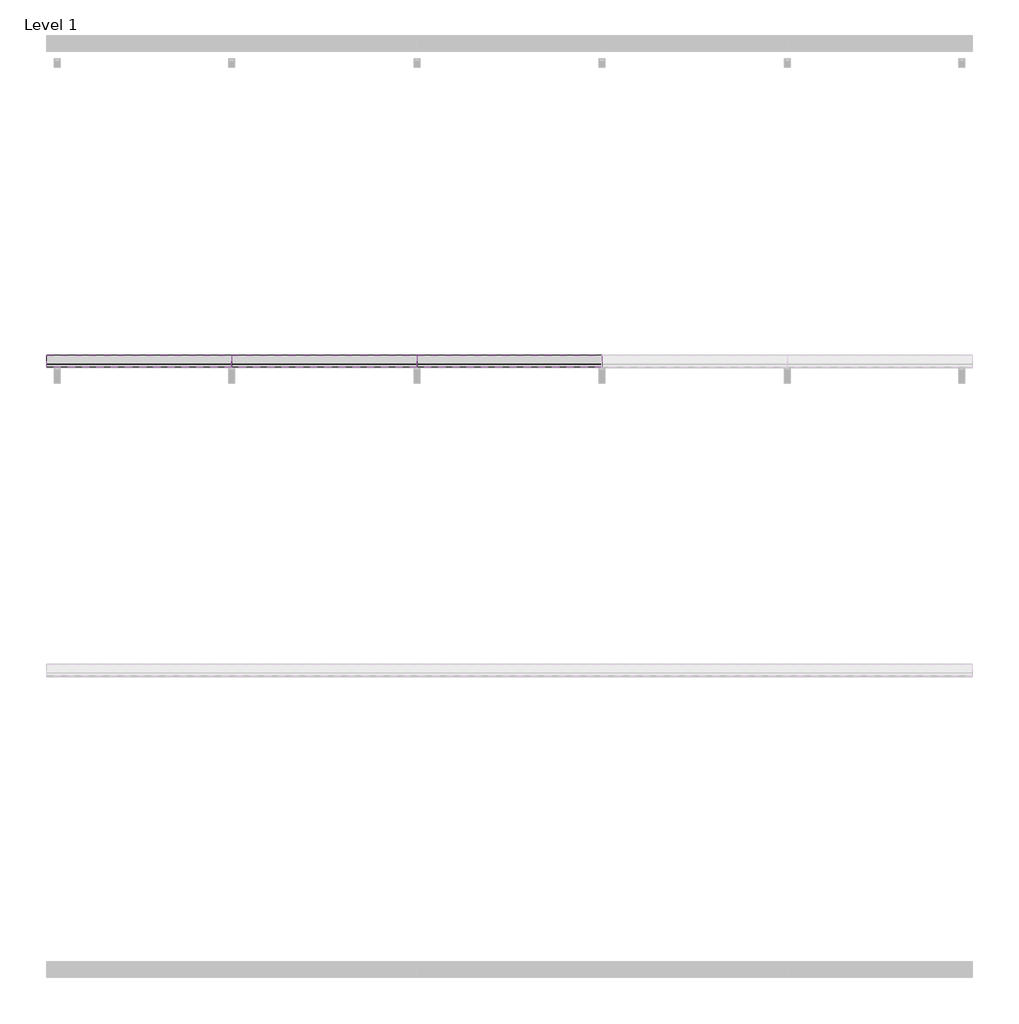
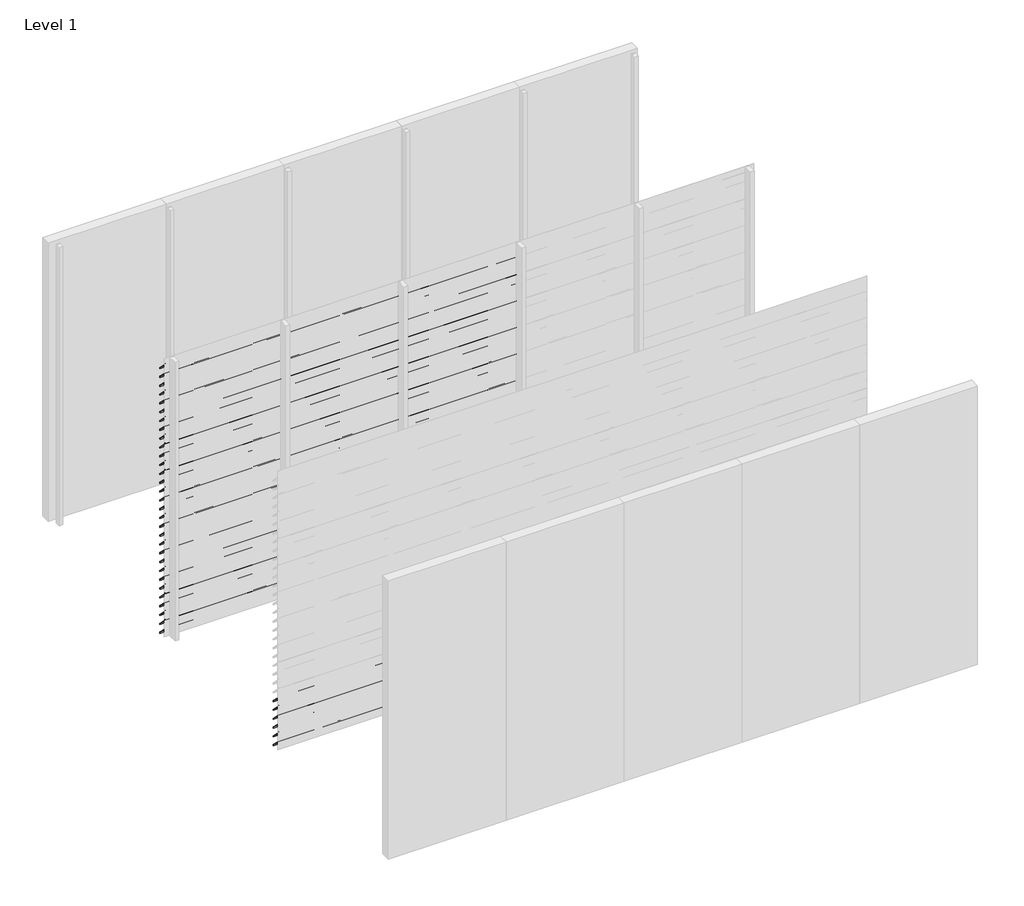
# One storey, part 10 of 24: 89 proxies.
"""IFC4 building model written with IfcOpenShell, lengths in millimetres."""

from ifc_helpers import new_model, si_unit, frame, origin, place, context, project, spatial, polyline, outline, extrude, element, save

model = new_model("IFC4")

# Units and contexts
model_context = context("Model", 3, world=origin())
ifc_project = project(units=[si_unit("LENGTHUNIT", "METRE", prefix="MILLI")], contexts=[model_context])

# Site, building, storey
site = spatial("IfcSite", under=ifc_project)
building = spatial("IfcBuilding", under=site)
storey = spatial("IfcBuildingStorey", under=building, Name="Level 1", Elevation=0.0)

# Proxies
placement = place(None, origin())
element("IfcBuildingElementProxy", 1, Name="Wall Sweeps", at=placement, inside=storey, context=model_context, shape_type="SweptSolid", body=[
    extrude(outline(polyline([(-35920.8, 2842.9), (-35922.3, 2842.9), (-35922.3, 2855.1762333), (-35998.0, 2930.4561238), (-35998.0, 2945.0), (-35996.5, 2945.0), (-35996.5, 2931.0798905), (-35920.8, 2855.8), (-35920.8, 2842.9)])), frame((0.0, 0.0, 0.0), z_axis=(1.0, 0.0, 0.0), x_axis=(0.0, 1.0, 0.0)), (0.0, 0.0, 1.0), 1200.0),
])
element("IfcBuildingElementProxy", 2, Name="Wall Sweeps", at=placement, inside=storey, context=model_context, shape_type="SweptSolid", body=[
    extrude(outline(polyline([(-35920.8, 2747.9), (-35922.3, 2747.9), (-35922.3, 2760.1762333), (-35998.0, 2835.4561238), (-35998.0, 2850.0), (-35996.5, 2850.0), (-35996.5, 2836.0798905), (-35920.8, 2760.8), (-35920.8, 2747.9)])), frame((0.0, 0.0, 0.0), z_axis=(1.0, 0.0, 0.0), x_axis=(0.0, 1.0, 0.0)), (0.0, 0.0, 1.0), 1200.0),
])
element("IfcBuildingElementProxy", 3, Name="Wall Sweeps", at=placement, inside=storey, context=model_context, shape_type="SweptSolid", body=[
    extrude(outline(polyline([(-35920.8, 2652.9), (-35922.3, 2652.9), (-35922.3, 2665.1762333), (-35998.0, 2740.4561238), (-35998.0, 2755.0), (-35996.5, 2755.0), (-35996.5, 2741.0798905), (-35920.8, 2665.8), (-35920.8, 2652.9)])), frame((0.0, 0.0, 0.0), z_axis=(1.0, 0.0, 0.0), x_axis=(0.0, 1.0, 0.0)), (0.0, 0.0, 1.0), 1200.0),
])
element("IfcBuildingElementProxy", 4, Name="Wall Sweeps", at=placement, inside=storey, context=model_context, shape_type="SweptSolid", body=[
    extrude(outline(polyline([(-35920.8, 2557.9), (-35922.3, 2557.9), (-35922.3, 2570.1762333), (-35998.0, 2645.4561238), (-35998.0, 2660.0), (-35996.5, 2660.0), (-35996.5, 2646.0798905), (-35920.8, 2570.8), (-35920.8, 2557.9)])), frame((0.0, 0.0, 0.0), z_axis=(1.0, 0.0, 0.0), x_axis=(0.0, 1.0, 0.0)), (0.0, 0.0, 1.0), 1200.0),
])
element("IfcBuildingElementProxy", 5, Name="Wall Sweeps", at=placement, inside=storey, context=model_context, shape_type="SweptSolid", body=[
    extrude(outline(polyline([(-35920.8, 2462.9), (-35922.3, 2462.9), (-35922.3, 2475.1762333), (-35998.0, 2550.4561238), (-35998.0, 2565.0), (-35996.5, 2565.0), (-35996.5, 2551.0798905), (-35920.8, 2475.8), (-35920.8, 2462.9)])), frame((0.0, 0.0, 0.0), z_axis=(1.0, 0.0, 0.0), x_axis=(0.0, 1.0, 0.0)), (0.0, 0.0, 1.0), 1200.0),
])
element("IfcBuildingElementProxy", 6, Name="Wall Sweeps", at=placement, inside=storey, context=model_context, shape_type="SweptSolid", body=[
    extrude(outline(polyline([(-35920.8, 2367.9), (-35922.3, 2367.9), (-35922.3, 2380.1762333), (-35998.0, 2455.4561238), (-35998.0, 2470.0), (-35996.5, 2470.0), (-35996.5, 2456.0798905), (-35920.8, 2380.8), (-35920.8, 2367.9)])), frame((0.0, 0.0, 0.0), z_axis=(1.0, 0.0, 0.0), x_axis=(0.0, 1.0, 0.0)), (0.0, 0.0, 1.0), 1200.0),
])
element("IfcBuildingElementProxy", 7, Name="Wall Sweeps", at=placement, inside=storey, context=model_context, shape_type="SweptSolid", body=[
    extrude(outline(polyline([(-35920.8, 2272.9), (-35922.3, 2272.9), (-35922.3, 2285.1762333), (-35998.0, 2360.4561238), (-35998.0, 2375.0), (-35996.5, 2375.0), (-35996.5, 2361.0798905), (-35920.8, 2285.8), (-35920.8, 2272.9)])), frame((0.0, 0.0, 0.0), z_axis=(1.0, 0.0, 0.0), x_axis=(0.0, 1.0, 0.0)), (0.0, 0.0, 1.0), 1200.0),
])
element("IfcBuildingElementProxy", 8, Name="Wall Sweeps", at=placement, inside=storey, context=model_context, shape_type="SweptSolid", body=[
    extrude(outline(polyline([(-35920.8, 2177.9), (-35922.3, 2177.9), (-35922.3, 2190.1762333), (-35998.0, 2265.4561238), (-35998.0, 2280.0), (-35996.5, 2280.0), (-35996.5, 2266.0798905), (-35920.8, 2190.8), (-35920.8, 2177.9)])), frame((0.0, 0.0, 0.0), z_axis=(1.0, 0.0, 0.0), x_axis=(0.0, 1.0, 0.0)), (0.0, 0.0, 1.0), 1200.0),
])
element("IfcBuildingElementProxy", 9, Name="Wall Sweeps", at=placement, inside=storey, context=model_context, shape_type="SweptSolid", body=[
    extrude(outline(polyline([(-35920.8, 2082.9), (-35922.3, 2082.9), (-35922.3, 2095.1762333), (-35998.0, 2170.4561238), (-35998.0, 2185.0), (-35996.5, 2185.0), (-35996.5, 2171.0798905), (-35920.8, 2095.8), (-35920.8, 2082.9)])), frame((0.0, 0.0, 0.0), z_axis=(1.0, 0.0, 0.0), x_axis=(0.0, 1.0, 0.0)), (0.0, 0.0, 1.0), 1200.0),
])
element("IfcBuildingElementProxy", 10, Name="Wall Sweeps", at=placement, inside=storey, context=model_context, shape_type="SweptSolid", body=[
    extrude(outline(polyline([(-35920.8, 1987.9), (-35922.3, 1987.9), (-35922.3, 2000.1762333), (-35998.0, 2075.4561238), (-35998.0, 2090.0), (-35996.5, 2090.0), (-35996.5, 2076.0798905), (-35920.8, 2000.8), (-35920.8, 1987.9)])), frame((0.0, 0.0, 0.0), z_axis=(1.0, 0.0, 0.0), x_axis=(0.0, 1.0, 0.0)), (0.0, 0.0, 1.0), 1200.0),
])
element("IfcBuildingElementProxy", 11, Name="Wall Sweeps", at=placement, inside=storey, context=model_context, shape_type="SweptSolid", body=[
    extrude(outline(polyline([(-35920.8, 1892.9), (-35922.3, 1892.9), (-35922.3, 1905.1762333), (-35998.0, 1980.4561238), (-35998.0, 1995.0), (-35996.5, 1995.0), (-35996.5, 1981.0798905), (-35920.8, 1905.8), (-35920.8, 1892.9)])), frame((0.0, 0.0, 0.0), z_axis=(1.0, 0.0, 0.0), x_axis=(0.0, 1.0, 0.0)), (0.0, 0.0, 1.0), 1200.0),
])
element("IfcBuildingElementProxy", 12, Name="Wall Sweeps", at=placement, inside=storey, context=model_context, shape_type="SweptSolid", body=[
    extrude(outline(polyline([(-35920.8, 1797.9), (-35922.3, 1797.9), (-35922.3, 1810.1762333), (-35998.0, 1885.4561238), (-35998.0, 1900.0), (-35996.5, 1900.0), (-35996.5, 1886.0798905), (-35920.8, 1810.8), (-35920.8, 1797.9)])), frame((0.0, 0.0, 0.0), z_axis=(1.0, 0.0, 0.0), x_axis=(0.0, 1.0, 0.0)), (0.0, 0.0, 1.0), 1200.0),
])
element("IfcBuildingElementProxy", 13, Name="Wall Sweeps", at=placement, inside=storey, context=model_context, shape_type="SweptSolid", body=[
    extrude(outline(polyline([(-35920.8, 1702.9), (-35922.3, 1702.9), (-35922.3, 1715.1762333), (-35998.0, 1790.4561238), (-35998.0, 1805.0), (-35996.5, 1805.0), (-35996.5, 1791.0798905), (-35920.8, 1715.8), (-35920.8, 1702.9)])), frame((0.0, 0.0, 0.0), z_axis=(1.0, 0.0, 0.0), x_axis=(0.0, 1.0, 0.0)), (0.0, 0.0, 1.0), 1200.0),
])
element("IfcBuildingElementProxy", 14, Name="Wall Sweeps", at=placement, inside=storey, context=model_context, shape_type="SweptSolid", body=[
    extrude(outline(polyline([(-35920.8, 1607.9), (-35922.3, 1607.9), (-35922.3, 1620.1762333), (-35998.0, 1695.4561238), (-35998.0, 1710.0), (-35996.5, 1710.0), (-35996.5, 1696.0798905), (-35920.8, 1620.8), (-35920.8, 1607.9)])), frame((0.0, 0.0, 0.0), z_axis=(1.0, 0.0, 0.0), x_axis=(0.0, 1.0, 0.0)), (0.0, 0.0, 1.0), 1200.0),
])
element("IfcBuildingElementProxy", 15, Name="Wall Sweeps", at=placement, inside=storey, context=model_context, shape_type="SweptSolid", body=[
    extrude(outline(polyline([(-35920.8, 1512.9), (-35922.3, 1512.9), (-35922.3, 1525.1762333), (-35998.0, 1600.4561238), (-35998.0, 1615.0), (-35996.5, 1615.0), (-35996.5, 1601.0798905), (-35920.8, 1525.8), (-35920.8, 1512.9)])), frame((0.0, 0.0, 0.0), z_axis=(1.0, 0.0, 0.0), x_axis=(0.0, 1.0, 0.0)), (0.0, 0.0, 1.0), 1200.0),
])
element("IfcBuildingElementProxy", 16, Name="Wall Sweeps", at=placement, inside=storey, context=model_context, shape_type="SweptSolid", body=[
    extrude(outline(polyline([(-35920.8, 1417.9), (-35922.3, 1417.9), (-35922.3, 1430.1762333), (-35998.0, 1505.4561238), (-35998.0, 1520.0), (-35996.5, 1520.0), (-35996.5, 1506.0798905), (-35920.8, 1430.8), (-35920.8, 1417.9)])), frame((0.0, 0.0, 0.0), z_axis=(1.0, 0.0, 0.0), x_axis=(0.0, 1.0, 0.0)), (0.0, 0.0, 1.0), 1200.0),
])
element("IfcBuildingElementProxy", 17, Name="Wall Sweeps", at=placement, inside=storey, context=model_context, shape_type="SweptSolid", body=[
    extrude(outline(polyline([(-35920.8, 1322.9), (-35922.3, 1322.9), (-35922.3, 1335.1762333), (-35998.0, 1410.4561238), (-35998.0, 1425.0), (-35996.5, 1425.0), (-35996.5, 1411.0798905), (-35920.8, 1335.8), (-35920.8, 1322.9)])), frame((0.0, 0.0, 0.0), z_axis=(1.0, 0.0, 0.0), x_axis=(0.0, 1.0, 0.0)), (0.0, 0.0, 1.0), 1200.0),
])
element("IfcBuildingElementProxy", 18, Name="Wall Sweeps", at=placement, inside=storey, context=model_context, shape_type="SweptSolid", body=[
    extrude(outline(polyline([(-35920.8, 1227.9), (-35922.3, 1227.9), (-35922.3, 1240.1762333), (-35998.0, 1315.4561238), (-35998.0, 1330.0), (-35996.5, 1330.0), (-35996.5, 1316.0798905), (-35920.8, 1240.8), (-35920.8, 1227.9)])), frame((0.0, 0.0, 0.0), z_axis=(1.0, 0.0, 0.0), x_axis=(0.0, 1.0, 0.0)), (0.0, 0.0, 1.0), 1200.0),
])
element("IfcBuildingElementProxy", 19, Name="Wall Sweeps", at=placement, inside=storey, context=model_context, shape_type="SweptSolid", body=[
    extrude(outline(polyline([(-35920.8, 1132.9), (-35922.3, 1132.9), (-35922.3, 1145.1762333), (-35998.0, 1220.4561238), (-35998.0, 1235.0), (-35996.5, 1235.0), (-35996.5, 1221.0798905), (-35920.8, 1145.8), (-35920.8, 1132.9)])), frame((0.0, 0.0, 0.0), z_axis=(1.0, 0.0, 0.0), x_axis=(0.0, 1.0, 0.0)), (0.0, 0.0, 1.0), 1200.0),
])
element("IfcBuildingElementProxy", 20, Name="Wall Sweeps", at=placement, inside=storey, context=model_context, shape_type="SweptSolid", body=[
    extrude(outline(polyline([(-35920.8, 1037.9), (-35922.3, 1037.9), (-35922.3, 1050.1762333), (-35998.0, 1125.4561238), (-35998.0, 1140.0), (-35996.5, 1140.0), (-35996.5, 1126.0798905), (-35920.8, 1050.8), (-35920.8, 1037.9)])), frame((0.0, 0.0, 0.0), z_axis=(1.0, 0.0, 0.0), x_axis=(0.0, 1.0, 0.0)), (0.0, 0.0, 1.0), 1200.0),
])
element("IfcBuildingElementProxy", 21, Name="Wall Sweeps", at=placement, inside=storey, context=model_context, shape_type="SweptSolid", body=[
    extrude(outline(polyline([(-35920.8, 942.9), (-35922.3, 942.9), (-35922.3, 955.1762333), (-35998.0, 1030.4561238), (-35998.0, 1045.0), (-35996.5, 1045.0), (-35996.5, 1031.0798905), (-35920.8, 955.8), (-35920.8, 942.9)])), frame((0.0, 0.0, 0.0), z_axis=(1.0, 0.0, 0.0), x_axis=(0.0, 1.0, 0.0)), (0.0, 0.0, 1.0), 1200.0),
])
element("IfcBuildingElementProxy", 22, Name="Wall Sweeps", at=placement, inside=storey, context=model_context, shape_type="SweptSolid", body=[
    extrude(outline(polyline([(-35920.8, 847.9), (-35922.3, 847.9), (-35922.3, 860.1762333), (-35998.0, 935.4561238), (-35998.0, 950.0), (-35996.5, 950.0), (-35996.5, 936.0798905), (-35920.8, 860.8), (-35920.8, 847.9)])), frame((0.0, 0.0, 0.0), z_axis=(1.0, 0.0, 0.0), x_axis=(0.0, 1.0, 0.0)), (0.0, 0.0, 1.0), 1200.0),
])
element("IfcBuildingElementProxy", 23, Name="Wall Sweeps", at=placement, inside=storey, context=model_context, shape_type="SweptSolid", body=[
    extrude(outline(polyline([(-35920.8, 752.9), (-35922.3, 752.9), (-35922.3, 765.1762333), (-35998.0, 840.4561238), (-35998.0, 855.0), (-35996.5, 855.0), (-35996.5, 841.0798905), (-35920.8, 765.8), (-35920.8, 752.9)])), frame((0.0, 0.0, 0.0), z_axis=(1.0, 0.0, 0.0), x_axis=(0.0, 1.0, 0.0)), (0.0, 0.0, 1.0), 1200.0),
])
element("IfcBuildingElementProxy", 24, Name="Wall Sweeps", at=placement, inside=storey, context=model_context, shape_type="SweptSolid", body=[
    extrude(outline(polyline([(-35920.8, 657.9), (-35922.3, 657.9), (-35922.3, 670.1762333), (-35998.0, 745.4561238), (-35998.0, 760.0), (-35996.5, 760.0), (-35996.5, 746.0798905), (-35920.8, 670.8), (-35920.8, 657.9)])), frame((0.0, 0.0, 0.0), z_axis=(1.0, 0.0, 0.0), x_axis=(0.0, 1.0, 0.0)), (0.0, 0.0, 1.0), 1200.0),
])
element("IfcBuildingElementProxy", 25, Name="Wall Sweeps", at=placement, inside=storey, context=model_context, shape_type="SweptSolid", body=[
    extrude(outline(polyline([(-35920.8, 562.9), (-35922.3, 562.9), (-35922.3, 575.1762333), (-35998.0, 650.4561238), (-35998.0, 665.0), (-35996.5, 665.0), (-35996.5, 651.0798905), (-35920.8, 575.8), (-35920.8, 562.9)])), frame((0.0, 0.0, 0.0), z_axis=(1.0, 0.0, 0.0), x_axis=(0.0, 1.0, 0.0)), (0.0, 0.0, 1.0), 1200.0),
])
element("IfcBuildingElementProxy", 26, Name="Wall Sweeps", at=placement, inside=storey, context=model_context, shape_type="SweptSolid", body=[
    extrude(outline(polyline([(-35920.8, 467.9), (-35922.3, 467.9), (-35922.3, 480.1762333), (-35998.0, 555.4561238), (-35998.0, 570.0), (-35996.5, 570.0), (-35996.5, 556.0798905), (-35920.8, 480.8), (-35920.8, 467.9)])), frame((0.0, 0.0, 0.0), z_axis=(1.0, 0.0, 0.0), x_axis=(0.0, 1.0, 0.0)), (0.0, 0.0, 1.0), 1200.0),
])
element("IfcBuildingElementProxy", 27, Name="Wall Sweeps", at=placement, inside=storey, context=model_context, shape_type="SweptSolid", body=[
    extrude(outline(polyline([(-35920.8, 372.9), (-35922.3, 372.9), (-35922.3, 385.1762333), (-35998.0, 460.4561238), (-35998.0, 475.0), (-35996.5, 475.0), (-35996.5, 461.0798905), (-35920.8, 385.8), (-35920.8, 372.9)])), frame((0.0, 0.0, 0.0), z_axis=(1.0, 0.0, 0.0), x_axis=(0.0, 1.0, 0.0)), (0.0, 0.0, 1.0), 1200.0),
])
element("IfcBuildingElementProxy", 28, Name="Wall Sweeps", at=placement, inside=storey, context=model_context, shape_type="SweptSolid", body=[
    extrude(outline(polyline([(-35920.8, 277.9), (-35922.3, 277.9), (-35922.3, 290.1762333), (-35998.0, 365.4561238), (-35998.0, 380.0), (-35996.5, 380.0), (-35996.5, 366.0798905), (-35920.8, 290.8), (-35920.8, 277.9)])), frame((0.0, 0.0, 0.0), z_axis=(1.0, 0.0, 0.0), x_axis=(0.0, 1.0, 0.0)), (0.0, 0.0, 1.0), 1200.0),
])
element("IfcBuildingElementProxy", 29, Name="Wall Sweeps", at=placement, inside=storey, context=model_context, shape_type="SweptSolid", body=[
    extrude(outline(polyline([(-35920.8, 182.9), (-35922.3, 182.9), (-35922.3, 195.1762333), (-35998.0, 270.4561238), (-35998.0, 285.0), (-35996.5, 285.0), (-35996.5, 271.0798905), (-35920.8, 195.8), (-35920.8, 182.9)])), frame((0.0, 0.0, 0.0), z_axis=(1.0, 0.0, 0.0), x_axis=(0.0, 1.0, 0.0)), (0.0, 0.0, 1.0), 1200.0),
])
element("IfcBuildingElementProxy", 30, Name="Wall Sweeps", at=placement, inside=storey, context=model_context, shape_type="SweptSolid", body=[
    extrude(outline(polyline([(-35920.8, 87.9), (-35922.3, 87.9), (-35922.3, 100.1762333), (-35998.0, 175.4561238), (-35998.0, 190.0), (-35996.5, 190.0), (-35996.5, 176.0798905), (-35920.8, 100.8), (-35920.8, 87.9)])), frame((0.0, 0.0, 0.0), z_axis=(1.0, 0.0, 0.0), x_axis=(0.0, 1.0, 0.0)), (0.0, 0.0, 1.0), 1200.0),
])
element("IfcBuildingElementProxy", 31, Name="Wall Sweeps", at=placement, inside=storey, context=model_context, shape_type="SweptSolid", body=[
    extrude(outline(polyline([(-35920.8, -7.1), (-35922.3, -7.1), (-35922.3, 5.1762333), (-35998.0, 80.4561238), (-35998.0, 95.0), (-35996.5, 95.0), (-35996.5, 81.0798905), (-35920.8, 5.8), (-35920.8, -7.1)])), frame((0.0, 0.0, 0.0), z_axis=(1.0, 0.0, 0.0), x_axis=(0.0, 1.0, 0.0)), (0.0, 0.0, 1.0), 1200.0),
])
element("IfcBuildingElementProxy", 32, Name="Wall Sweeps", at=placement, inside=storey, context=model_context, shape_type="SweptSolid", body=[
    extrude(outline(polyline([(-35920.8, 2842.9), (-35922.3, 2842.9), (-35922.3, 2855.1762333), (-35998.0, 2930.4561238), (-35998.0, 2945.0), (-35996.5, 2945.0), (-35996.5, 2931.0798905), (-35920.8, 2855.8), (-35920.8, 2842.9)])), frame((1200.0, 0.0, 0.0), z_axis=(1.0, 0.0, 0.0), x_axis=(0.0, 1.0, 0.0)), (0.0, 0.0, 1.0), 1200.0),
])
element("IfcBuildingElementProxy", 33, Name="Wall Sweeps", at=placement, inside=storey, context=model_context, shape_type="SweptSolid", body=[
    extrude(outline(polyline([(-35920.8, 2747.9), (-35922.3, 2747.9), (-35922.3, 2760.1762333), (-35998.0, 2835.4561238), (-35998.0, 2850.0), (-35996.5, 2850.0), (-35996.5, 2836.0798905), (-35920.8, 2760.8), (-35920.8, 2747.9)])), frame((1200.0, 0.0, 0.0), z_axis=(1.0, 0.0, 0.0), x_axis=(0.0, 1.0, 0.0)), (0.0, 0.0, 1.0), 1200.0),
])
element("IfcBuildingElementProxy", 34, Name="Wall Sweeps", at=placement, inside=storey, context=model_context, shape_type="SweptSolid", body=[
    extrude(outline(polyline([(-35920.8, 2652.9), (-35922.3, 2652.9), (-35922.3, 2665.1762333), (-35998.0, 2740.4561238), (-35998.0, 2755.0), (-35996.5, 2755.0), (-35996.5, 2741.0798905), (-35920.8, 2665.8), (-35920.8, 2652.9)])), frame((1200.0, 0.0, 0.0), z_axis=(1.0, 0.0, 0.0), x_axis=(0.0, 1.0, 0.0)), (0.0, 0.0, 1.0), 1200.0),
])
element("IfcBuildingElementProxy", 35, Name="Wall Sweeps", at=placement, inside=storey, context=model_context, shape_type="SweptSolid", body=[
    extrude(outline(polyline([(-35920.8, 2557.9), (-35922.3, 2557.9), (-35922.3, 2570.1762333), (-35998.0, 2645.4561238), (-35998.0, 2660.0), (-35996.5, 2660.0), (-35996.5, 2646.0798905), (-35920.8, 2570.8), (-35920.8, 2557.9)])), frame((1200.0, 0.0, 0.0), z_axis=(1.0, 0.0, 0.0), x_axis=(0.0, 1.0, 0.0)), (0.0, 0.0, 1.0), 1200.0),
])
element("IfcBuildingElementProxy", 36, Name="Wall Sweeps", at=placement, inside=storey, context=model_context, shape_type="SweptSolid", body=[
    extrude(outline(polyline([(-35920.8, 2462.9), (-35922.3, 2462.9), (-35922.3, 2475.1762333), (-35998.0, 2550.4561238), (-35998.0, 2565.0), (-35996.5, 2565.0), (-35996.5, 2551.0798905), (-35920.8, 2475.8), (-35920.8, 2462.9)])), frame((1200.0, 0.0, 0.0), z_axis=(1.0, 0.0, 0.0), x_axis=(0.0, 1.0, 0.0)), (0.0, 0.0, 1.0), 1200.0),
])
element("IfcBuildingElementProxy", 37, Name="Wall Sweeps", at=placement, inside=storey, context=model_context, shape_type="SweptSolid", body=[
    extrude(outline(polyline([(-35920.8, 2367.9), (-35922.3, 2367.9), (-35922.3, 2380.1762333), (-35998.0, 2455.4561238), (-35998.0, 2470.0), (-35996.5, 2470.0), (-35996.5, 2456.0798905), (-35920.8, 2380.8), (-35920.8, 2367.9)])), frame((1200.0, 0.0, 0.0), z_axis=(1.0, 0.0, 0.0), x_axis=(0.0, 1.0, 0.0)), (0.0, 0.0, 1.0), 1200.0),
])
element("IfcBuildingElementProxy", 38, Name="Wall Sweeps", at=placement, inside=storey, context=model_context, shape_type="SweptSolid", body=[
    extrude(outline(polyline([(-35920.8, 2272.9), (-35922.3, 2272.9), (-35922.3, 2285.1762333), (-35998.0, 2360.4561238), (-35998.0, 2375.0), (-35996.5, 2375.0), (-35996.5, 2361.0798905), (-35920.8, 2285.8), (-35920.8, 2272.9)])), frame((1200.0, 0.0, 0.0), z_axis=(1.0, 0.0, 0.0), x_axis=(0.0, 1.0, 0.0)), (0.0, 0.0, 1.0), 1200.0),
])
element("IfcBuildingElementProxy", 39, Name="Wall Sweeps", at=placement, inside=storey, context=model_context, shape_type="SweptSolid", body=[
    extrude(outline(polyline([(-35920.8, 2177.9), (-35922.3, 2177.9), (-35922.3, 2190.1762333), (-35998.0, 2265.4561238), (-35998.0, 2280.0), (-35996.5, 2280.0), (-35996.5, 2266.0798905), (-35920.8, 2190.8), (-35920.8, 2177.9)])), frame((1200.0, 0.0, 0.0), z_axis=(1.0, 0.0, 0.0), x_axis=(0.0, 1.0, 0.0)), (0.0, 0.0, 1.0), 1200.0),
])
element("IfcBuildingElementProxy", 40, Name="Wall Sweeps", at=placement, inside=storey, context=model_context, shape_type="SweptSolid", body=[
    extrude(outline(polyline([(-35920.8, 2082.9), (-35922.3, 2082.9), (-35922.3, 2095.1762333), (-35998.0, 2170.4561238), (-35998.0, 2185.0), (-35996.5, 2185.0), (-35996.5, 2171.0798905), (-35920.8, 2095.8), (-35920.8, 2082.9)])), frame((1200.0, 0.0, 0.0), z_axis=(1.0, 0.0, 0.0), x_axis=(0.0, 1.0, 0.0)), (0.0, 0.0, 1.0), 1200.0),
])
element("IfcBuildingElementProxy", 41, Name="Wall Sweeps", at=placement, inside=storey, context=model_context, shape_type="SweptSolid", body=[
    extrude(outline(polyline([(-35920.8, 1987.9), (-35922.3, 1987.9), (-35922.3, 2000.1762333), (-35998.0, 2075.4561238), (-35998.0, 2090.0), (-35996.5, 2090.0), (-35996.5, 2076.0798905), (-35920.8, 2000.8), (-35920.8, 1987.9)])), frame((1200.0, 0.0, 0.0), z_axis=(1.0, 0.0, 0.0), x_axis=(0.0, 1.0, 0.0)), (0.0, 0.0, 1.0), 1200.0),
])
element("IfcBuildingElementProxy", 42, Name="Wall Sweeps", at=placement, inside=storey, context=model_context, shape_type="SweptSolid", body=[
    extrude(outline(polyline([(-35920.8, 1892.9), (-35922.3, 1892.9), (-35922.3, 1905.1762333), (-35998.0, 1980.4561238), (-35998.0, 1995.0), (-35996.5, 1995.0), (-35996.5, 1981.0798905), (-35920.8, 1905.8), (-35920.8, 1892.9)])), frame((1200.0, 0.0, 0.0), z_axis=(1.0, 0.0, 0.0), x_axis=(0.0, 1.0, 0.0)), (0.0, 0.0, 1.0), 1200.0),
])
element("IfcBuildingElementProxy", 43, Name="Wall Sweeps", at=placement, inside=storey, context=model_context, shape_type="SweptSolid", body=[
    extrude(outline(polyline([(-35920.8, 1797.9), (-35922.3, 1797.9), (-35922.3, 1810.1762333), (-35998.0, 1885.4561238), (-35998.0, 1900.0), (-35996.5, 1900.0), (-35996.5, 1886.0798905), (-35920.8, 1810.8), (-35920.8, 1797.9)])), frame((1200.0, 0.0, 0.0), z_axis=(1.0, 0.0, 0.0), x_axis=(0.0, 1.0, 0.0)), (0.0, 0.0, 1.0), 1200.0),
])
element("IfcBuildingElementProxy", 44, Name="Wall Sweeps", at=placement, inside=storey, context=model_context, shape_type="SweptSolid", body=[
    extrude(outline(polyline([(-35920.8, 1702.9), (-35922.3, 1702.9), (-35922.3, 1715.1762333), (-35998.0, 1790.4561238), (-35998.0, 1805.0), (-35996.5, 1805.0), (-35996.5, 1791.0798905), (-35920.8, 1715.8), (-35920.8, 1702.9)])), frame((1200.0, 0.0, 0.0), z_axis=(1.0, 0.0, 0.0), x_axis=(0.0, 1.0, 0.0)), (0.0, 0.0, 1.0), 1200.0),
])
element("IfcBuildingElementProxy", 45, Name="Wall Sweeps", at=placement, inside=storey, context=model_context, shape_type="SweptSolid", body=[
    extrude(outline(polyline([(-35920.8, 1607.9), (-35922.3, 1607.9), (-35922.3, 1620.1762333), (-35998.0, 1695.4561238), (-35998.0, 1710.0), (-35996.5, 1710.0), (-35996.5, 1696.0798905), (-35920.8, 1620.8), (-35920.8, 1607.9)])), frame((1200.0, 0.0, 0.0), z_axis=(1.0, 0.0, 0.0), x_axis=(0.0, 1.0, 0.0)), (0.0, 0.0, 1.0), 1200.0),
])
element("IfcBuildingElementProxy", 46, Name="Wall Sweeps", at=placement, inside=storey, context=model_context, shape_type="SweptSolid", body=[
    extrude(outline(polyline([(-35920.8, 1512.9), (-35922.3, 1512.9), (-35922.3, 1525.1762333), (-35998.0, 1600.4561238), (-35998.0, 1615.0), (-35996.5, 1615.0), (-35996.5, 1601.0798905), (-35920.8, 1525.8), (-35920.8, 1512.9)])), frame((1200.0, 0.0, 0.0), z_axis=(1.0, 0.0, 0.0), x_axis=(0.0, 1.0, 0.0)), (0.0, 0.0, 1.0), 1200.0),
])
element("IfcBuildingElementProxy", 47, Name="Wall Sweeps", at=placement, inside=storey, context=model_context, shape_type="SweptSolid", body=[
    extrude(outline(polyline([(-35920.8, 1417.9), (-35922.3, 1417.9), (-35922.3, 1430.1762333), (-35998.0, 1505.4561238), (-35998.0, 1520.0), (-35996.5, 1520.0), (-35996.5, 1506.0798905), (-35920.8, 1430.8), (-35920.8, 1417.9)])), frame((1200.0, 0.0, 0.0), z_axis=(1.0, 0.0, 0.0), x_axis=(0.0, 1.0, 0.0)), (0.0, 0.0, 1.0), 1200.0),
])
element("IfcBuildingElementProxy", 48, Name="Wall Sweeps", at=placement, inside=storey, context=model_context, shape_type="SweptSolid", body=[
    extrude(outline(polyline([(-35920.8, 1322.9), (-35922.3, 1322.9), (-35922.3, 1335.1762333), (-35998.0, 1410.4561238), (-35998.0, 1425.0), (-35996.5, 1425.0), (-35996.5, 1411.0798905), (-35920.8, 1335.8), (-35920.8, 1322.9)])), frame((1200.0, 0.0, 0.0), z_axis=(1.0, 0.0, 0.0), x_axis=(0.0, 1.0, 0.0)), (0.0, 0.0, 1.0), 1200.0),
])
element("IfcBuildingElementProxy", 49, Name="Wall Sweeps", at=placement, inside=storey, context=model_context, shape_type="SweptSolid", body=[
    extrude(outline(polyline([(-35920.8, 1227.9), (-35922.3, 1227.9), (-35922.3, 1240.1762333), (-35998.0, 1315.4561238), (-35998.0, 1330.0), (-35996.5, 1330.0), (-35996.5, 1316.0798905), (-35920.8, 1240.8), (-35920.8, 1227.9)])), frame((1200.0, 0.0, 0.0), z_axis=(1.0, 0.0, 0.0), x_axis=(0.0, 1.0, 0.0)), (0.0, 0.0, 1.0), 1200.0),
])
element("IfcBuildingElementProxy", 50, Name="Wall Sweeps", at=placement, inside=storey, context=model_context, shape_type="SweptSolid", body=[
    extrude(outline(polyline([(-35920.8, 1132.9), (-35922.3, 1132.9), (-35922.3, 1145.1762333), (-35998.0, 1220.4561238), (-35998.0, 1235.0), (-35996.5, 1235.0), (-35996.5, 1221.0798905), (-35920.8, 1145.8), (-35920.8, 1132.9)])), frame((1200.0, 0.0, 0.0), z_axis=(1.0, 0.0, 0.0), x_axis=(0.0, 1.0, 0.0)), (0.0, 0.0, 1.0), 1200.0),
])
element("IfcBuildingElementProxy", 51, Name="Wall Sweeps", at=placement, inside=storey, context=model_context, shape_type="SweptSolid", body=[
    extrude(outline(polyline([(-35920.8, 1037.9), (-35922.3, 1037.9), (-35922.3, 1050.1762333), (-35998.0, 1125.4561238), (-35998.0, 1140.0), (-35996.5, 1140.0), (-35996.5, 1126.0798905), (-35920.8, 1050.8), (-35920.8, 1037.9)])), frame((1200.0, 0.0, 0.0), z_axis=(1.0, 0.0, 0.0), x_axis=(0.0, 1.0, 0.0)), (0.0, 0.0, 1.0), 1200.0),
])
element("IfcBuildingElementProxy", 52, Name="Wall Sweeps", at=placement, inside=storey, context=model_context, shape_type="SweptSolid", body=[
    extrude(outline(polyline([(-35920.8, 942.9), (-35922.3, 942.9), (-35922.3, 955.1762333), (-35998.0, 1030.4561238), (-35998.0, 1045.0), (-35996.5, 1045.0), (-35996.5, 1031.0798905), (-35920.8, 955.8), (-35920.8, 942.9)])), frame((1200.0, 0.0, 0.0), z_axis=(1.0, 0.0, 0.0), x_axis=(0.0, 1.0, 0.0)), (0.0, 0.0, 1.0), 1200.0),
])
element("IfcBuildingElementProxy", 53, Name="Wall Sweeps", at=placement, inside=storey, context=model_context, shape_type="SweptSolid", body=[
    extrude(outline(polyline([(-35920.8, 847.9), (-35922.3, 847.9), (-35922.3, 860.1762333), (-35998.0, 935.4561238), (-35998.0, 950.0), (-35996.5, 950.0), (-35996.5, 936.0798905), (-35920.8, 860.8), (-35920.8, 847.9)])), frame((1200.0, 0.0, 0.0), z_axis=(1.0, 0.0, 0.0), x_axis=(0.0, 1.0, 0.0)), (0.0, 0.0, 1.0), 1200.0),
])
element("IfcBuildingElementProxy", 54, Name="Wall Sweeps", at=placement, inside=storey, context=model_context, shape_type="SweptSolid", body=[
    extrude(outline(polyline([(-35920.8, 752.9), (-35922.3, 752.9), (-35922.3, 765.1762333), (-35998.0, 840.4561238), (-35998.0, 855.0), (-35996.5, 855.0), (-35996.5, 841.0798905), (-35920.8, 765.8), (-35920.8, 752.9)])), frame((1200.0, 0.0, 0.0), z_axis=(1.0, 0.0, 0.0), x_axis=(0.0, 1.0, 0.0)), (0.0, 0.0, 1.0), 1200.0),
])
element("IfcBuildingElementProxy", 55, Name="Wall Sweeps", at=placement, inside=storey, context=model_context, shape_type="SweptSolid", body=[
    extrude(outline(polyline([(-35920.8, 657.9), (-35922.3, 657.9), (-35922.3, 670.1762333), (-35998.0, 745.4561238), (-35998.0, 760.0), (-35996.5, 760.0), (-35996.5, 746.0798905), (-35920.8, 670.8), (-35920.8, 657.9)])), frame((1200.0, 0.0, 0.0), z_axis=(1.0, 0.0, 0.0), x_axis=(0.0, 1.0, 0.0)), (0.0, 0.0, 1.0), 1200.0),
])
element("IfcBuildingElementProxy", 56, Name="Wall Sweeps", at=placement, inside=storey, context=model_context, shape_type="SweptSolid", body=[
    extrude(outline(polyline([(-35920.8, 562.9), (-35922.3, 562.9), (-35922.3, 575.1762333), (-35998.0, 650.4561238), (-35998.0, 665.0), (-35996.5, 665.0), (-35996.5, 651.0798905), (-35920.8, 575.8), (-35920.8, 562.9)])), frame((1200.0, 0.0, 0.0), z_axis=(1.0, 0.0, 0.0), x_axis=(0.0, 1.0, 0.0)), (0.0, 0.0, 1.0), 1200.0),
])
element("IfcBuildingElementProxy", 57, Name="Wall Sweeps", at=placement, inside=storey, context=model_context, shape_type="SweptSolid", body=[
    extrude(outline(polyline([(-35920.8, 467.9), (-35922.3, 467.9), (-35922.3, 480.1762333), (-35998.0, 555.4561238), (-35998.0, 570.0), (-35996.5, 570.0), (-35996.5, 556.0798905), (-35920.8, 480.8), (-35920.8, 467.9)])), frame((1200.0, 0.0, 0.0), z_axis=(1.0, 0.0, 0.0), x_axis=(0.0, 1.0, 0.0)), (0.0, 0.0, 1.0), 1200.0),
])
element("IfcBuildingElementProxy", 58, Name="Wall Sweeps", at=placement, inside=storey, context=model_context, shape_type="SweptSolid", body=[
    extrude(outline(polyline([(-35920.8, 372.9), (-35922.3, 372.9), (-35922.3, 385.1762333), (-35998.0, 460.4561238), (-35998.0, 475.0), (-35996.5, 475.0), (-35996.5, 461.0798905), (-35920.8, 385.8), (-35920.8, 372.9)])), frame((1200.0, 0.0, 0.0), z_axis=(1.0, 0.0, 0.0), x_axis=(0.0, 1.0, 0.0)), (0.0, 0.0, 1.0), 1200.0),
])
element("IfcBuildingElementProxy", 59, Name="Wall Sweeps", at=placement, inside=storey, context=model_context, shape_type="SweptSolid", body=[
    extrude(outline(polyline([(-35920.8, 277.9), (-35922.3, 277.9), (-35922.3, 290.1762333), (-35998.0, 365.4561238), (-35998.0, 380.0), (-35996.5, 380.0), (-35996.5, 366.0798905), (-35920.8, 290.8), (-35920.8, 277.9)])), frame((1200.0, 0.0, 0.0), z_axis=(1.0, 0.0, 0.0), x_axis=(0.0, 1.0, 0.0)), (0.0, 0.0, 1.0), 1200.0),
])
element("IfcBuildingElementProxy", 60, Name="Wall Sweeps", at=placement, inside=storey, context=model_context, shape_type="SweptSolid", body=[
    extrude(outline(polyline([(-35920.8, 182.9), (-35922.3, 182.9), (-35922.3, 195.1762333), (-35998.0, 270.4561238), (-35998.0, 285.0), (-35996.5, 285.0), (-35996.5, 271.0798905), (-35920.8, 195.8), (-35920.8, 182.9)])), frame((1200.0, 0.0, 0.0), z_axis=(1.0, 0.0, 0.0), x_axis=(0.0, 1.0, 0.0)), (0.0, 0.0, 1.0), 1200.0),
])
element("IfcBuildingElementProxy", 61, Name="Wall Sweeps", at=placement, inside=storey, context=model_context, shape_type="SweptSolid", body=[
    extrude(outline(polyline([(-35920.8, 87.9), (-35922.3, 87.9), (-35922.3, 100.1762333), (-35998.0, 175.4561238), (-35998.0, 190.0), (-35996.5, 190.0), (-35996.5, 176.0798905), (-35920.8, 100.8), (-35920.8, 87.9)])), frame((1200.0, 0.0, 0.0), z_axis=(1.0, 0.0, 0.0), x_axis=(0.0, 1.0, 0.0)), (0.0, 0.0, 1.0), 1200.0),
])
element("IfcBuildingElementProxy", 62, Name="Wall Sweeps", at=placement, inside=storey, context=model_context, shape_type="SweptSolid", body=[
    extrude(outline(polyline([(-35920.8, -7.1), (-35922.3, -7.1), (-35922.3, 5.1762333), (-35998.0, 80.4561238), (-35998.0, 95.0), (-35996.5, 95.0), (-35996.5, 81.0798905), (-35920.8, 5.8), (-35920.8, -7.1)])), frame((1200.0, 0.0, 0.0), z_axis=(1.0, 0.0, 0.0), x_axis=(0.0, 1.0, 0.0)), (0.0, 0.0, 1.0), 1200.0),
])
element("IfcBuildingElementProxy", 63, Name="Wall Sweeps", at=placement, inside=storey, context=model_context, shape_type="SweptSolid", body=[
    extrude(outline(polyline([(-35920.8, 2842.9), (-35922.3, 2842.9), (-35922.3, 2855.1762333), (-35998.0, 2930.4561238), (-35998.0, 2945.0), (-35996.5, 2945.0), (-35996.5, 2931.0798905), (-35920.8, 2855.8), (-35920.8, 2842.9)])), frame((2400.0, 0.0, 0.0), z_axis=(1.0, 0.0, 0.0), x_axis=(0.0, 1.0, 0.0)), (0.0, 0.0, 1.0), 1200.0),
])
element("IfcBuildingElementProxy", 64, Name="Wall Sweeps", at=placement, inside=storey, context=model_context, shape_type="SweptSolid", body=[
    extrude(outline(polyline([(-35920.8, 2747.9), (-35922.3, 2747.9), (-35922.3, 2760.1762333), (-35998.0, 2835.4561238), (-35998.0, 2850.0), (-35996.5, 2850.0), (-35996.5, 2836.0798905), (-35920.8, 2760.8), (-35920.8, 2747.9)])), frame((2400.0, 0.0, 0.0), z_axis=(1.0, 0.0, 0.0), x_axis=(0.0, 1.0, 0.0)), (0.0, 0.0, 1.0), 1200.0),
])
element("IfcBuildingElementProxy", 65, Name="Wall Sweeps", at=placement, inside=storey, context=model_context, shape_type="SweptSolid", body=[
    extrude(outline(polyline([(-35920.8, 2652.9), (-35922.3, 2652.9), (-35922.3, 2665.1762333), (-35998.0, 2740.4561238), (-35998.0, 2755.0), (-35996.5, 2755.0), (-35996.5, 2741.0798905), (-35920.8, 2665.8), (-35920.8, 2652.9)])), frame((2400.0, 0.0, 0.0), z_axis=(1.0, 0.0, 0.0), x_axis=(0.0, 1.0, 0.0)), (0.0, 0.0, 1.0), 1200.0),
])
element("IfcBuildingElementProxy", 66, Name="Wall Sweeps", at=placement, inside=storey, context=model_context, shape_type="SweptSolid", body=[
    extrude(outline(polyline([(-35920.8, 2557.9), (-35922.3, 2557.9), (-35922.3, 2570.1762333), (-35998.0, 2645.4561238), (-35998.0, 2660.0), (-35996.5, 2660.0), (-35996.5, 2646.0798905), (-35920.8, 2570.8), (-35920.8, 2557.9)])), frame((2400.0, 0.0, 0.0), z_axis=(1.0, 0.0, 0.0), x_axis=(0.0, 1.0, 0.0)), (0.0, 0.0, 1.0), 1200.0),
])
element("IfcBuildingElementProxy", 67, Name="Wall Sweeps", at=placement, inside=storey, context=model_context, shape_type="SweptSolid", body=[
    extrude(outline(polyline([(-35920.8, 2462.9), (-35922.3, 2462.9), (-35922.3, 2475.1762333), (-35998.0, 2550.4561238), (-35998.0, 2565.0), (-35996.5, 2565.0), (-35996.5, 2551.0798905), (-35920.8, 2475.8), (-35920.8, 2462.9)])), frame((2400.0, 0.0, 0.0), z_axis=(1.0, 0.0, 0.0), x_axis=(0.0, 1.0, 0.0)), (0.0, 0.0, 1.0), 1200.0),
])
element("IfcBuildingElementProxy", 68, Name="Wall Sweeps", at=placement, inside=storey, context=model_context, shape_type="SweptSolid", body=[
    extrude(outline(polyline([(-35920.8, 2367.9), (-35922.3, 2367.9), (-35922.3, 2380.1762333), (-35998.0, 2455.4561238), (-35998.0, 2470.0), (-35996.5, 2470.0), (-35996.5, 2456.0798905), (-35920.8, 2380.8), (-35920.8, 2367.9)])), frame((2400.0, 0.0, 0.0), z_axis=(1.0, 0.0, 0.0), x_axis=(0.0, 1.0, 0.0)), (0.0, 0.0, 1.0), 1200.0),
])
element("IfcBuildingElementProxy", 69, Name="Wall Sweeps", at=placement, inside=storey, context=model_context, shape_type="SweptSolid", body=[
    extrude(outline(polyline([(-35920.8, 2272.9), (-35922.3, 2272.9), (-35922.3, 2285.1762333), (-35998.0, 2360.4561238), (-35998.0, 2375.0), (-35996.5, 2375.0), (-35996.5, 2361.0798905), (-35920.8, 2285.8), (-35920.8, 2272.9)])), frame((2400.0, 0.0, 0.0), z_axis=(1.0, 0.0, 0.0), x_axis=(0.0, 1.0, 0.0)), (0.0, 0.0, 1.0), 1200.0),
])
element("IfcBuildingElementProxy", 70, Name="Wall Sweeps", at=placement, inside=storey, context=model_context, shape_type="SweptSolid", body=[
    extrude(outline(polyline([(-35920.8, 2177.9), (-35922.3, 2177.9), (-35922.3, 2190.1762333), (-35998.0, 2265.4561238), (-35998.0, 2280.0), (-35996.5, 2280.0), (-35996.5, 2266.0798905), (-35920.8, 2190.8), (-35920.8, 2177.9)])), frame((2400.0, 0.0, 0.0), z_axis=(1.0, 0.0, 0.0), x_axis=(0.0, 1.0, 0.0)), (0.0, 0.0, 1.0), 1200.0),
])
element("IfcBuildingElementProxy", 71, Name="Wall Sweeps", at=placement, inside=storey, context=model_context, shape_type="SweptSolid", body=[
    extrude(outline(polyline([(-35920.8, 2082.9), (-35922.3, 2082.9), (-35922.3, 2095.1762333), (-35998.0, 2170.4561238), (-35998.0, 2185.0), (-35996.5, 2185.0), (-35996.5, 2171.0798905), (-35920.8, 2095.8), (-35920.8, 2082.9)])), frame((2400.0, 0.0, 0.0), z_axis=(1.0, 0.0, 0.0), x_axis=(0.0, 1.0, 0.0)), (0.0, 0.0, 1.0), 1200.0),
])
element("IfcBuildingElementProxy", 72, Name="Wall Sweeps", at=placement, inside=storey, context=model_context, shape_type="SweptSolid", body=[
    extrude(outline(polyline([(-35920.8, 1987.9), (-35922.3, 1987.9), (-35922.3, 2000.1762333), (-35998.0, 2075.4561238), (-35998.0, 2090.0), (-35996.5, 2090.0), (-35996.5, 2076.0798905), (-35920.8, 2000.8), (-35920.8, 1987.9)])), frame((2400.0, 0.0, 0.0), z_axis=(1.0, 0.0, 0.0), x_axis=(0.0, 1.0, 0.0)), (0.0, 0.0, 1.0), 1200.0),
])
element("IfcBuildingElementProxy", 73, Name="Wall Sweeps", at=placement, inside=storey, context=model_context, shape_type="SweptSolid", body=[
    extrude(outline(polyline([(-35920.8, 1892.9), (-35922.3, 1892.9), (-35922.3, 1905.1762333), (-35998.0, 1980.4561238), (-35998.0, 1995.0), (-35996.5, 1995.0), (-35996.5, 1981.0798905), (-35920.8, 1905.8), (-35920.8, 1892.9)])), frame((2400.0, 0.0, 0.0), z_axis=(1.0, 0.0, 0.0), x_axis=(0.0, 1.0, 0.0)), (0.0, 0.0, 1.0), 1200.0),
])
element("IfcBuildingElementProxy", 74, Name="Wall Sweeps", at=placement, inside=storey, context=model_context, shape_type="SweptSolid", body=[
    extrude(outline(polyline([(-35920.8, 1797.9), (-35922.3, 1797.9), (-35922.3, 1810.1762333), (-35998.0, 1885.4561238), (-35998.0, 1900.0), (-35996.5, 1900.0), (-35996.5, 1886.0798905), (-35920.8, 1810.8), (-35920.8, 1797.9)])), frame((2400.0, 0.0, 0.0), z_axis=(1.0, 0.0, 0.0), x_axis=(0.0, 1.0, 0.0)), (0.0, 0.0, 1.0), 1200.0),
])
element("IfcBuildingElementProxy", 75, Name="Wall Sweeps", at=placement, inside=storey, context=model_context, shape_type="SweptSolid", body=[
    extrude(outline(polyline([(-35920.8, 1702.9), (-35922.3, 1702.9), (-35922.3, 1715.1762333), (-35998.0, 1790.4561238), (-35998.0, 1805.0), (-35996.5, 1805.0), (-35996.5, 1791.0798905), (-35920.8, 1715.8), (-35920.8, 1702.9)])), frame((2400.0, 0.0, 0.0), z_axis=(1.0, 0.0, 0.0), x_axis=(0.0, 1.0, 0.0)), (0.0, 0.0, 1.0), 1200.0),
])
element("IfcBuildingElementProxy", 76, Name="Wall Sweeps", at=placement, inside=storey, context=model_context, shape_type="SweptSolid", body=[
    extrude(outline(polyline([(-35920.8, 1607.9), (-35922.3, 1607.9), (-35922.3, 1620.1762333), (-35998.0, 1695.4561238), (-35998.0, 1710.0), (-35996.5, 1710.0), (-35996.5, 1696.0798905), (-35920.8, 1620.8), (-35920.8, 1607.9)])), frame((2400.0, 0.0, 0.0), z_axis=(1.0, 0.0, 0.0), x_axis=(0.0, 1.0, 0.0)), (0.0, 0.0, 1.0), 1200.0),
])
element("IfcBuildingElementProxy", 77, Name="Wall Sweeps", at=placement, inside=storey, context=model_context, shape_type="SweptSolid", body=[
    extrude(outline(polyline([(-35920.8, 1512.9), (-35922.3, 1512.9), (-35922.3, 1525.1762333), (-35998.0, 1600.4561238), (-35998.0, 1615.0), (-35996.5, 1615.0), (-35996.5, 1601.0798905), (-35920.8, 1525.8), (-35920.8, 1512.9)])), frame((2400.0, 0.0, 0.0), z_axis=(1.0, 0.0, 0.0), x_axis=(0.0, 1.0, 0.0)), (0.0, 0.0, 1.0), 1200.0),
])
element("IfcBuildingElementProxy", 78, Name="Wall Sweeps", at=placement, inside=storey, context=model_context, shape_type="SweptSolid", body=[
    extrude(outline(polyline([(-35920.8, 1417.9), (-35922.3, 1417.9), (-35922.3, 1430.1762333), (-35998.0, 1505.4561238), (-35998.0, 1520.0), (-35996.5, 1520.0), (-35996.5, 1506.0798905), (-35920.8, 1430.8), (-35920.8, 1417.9)])), frame((2400.0, 0.0, 0.0), z_axis=(1.0, 0.0, 0.0), x_axis=(0.0, 1.0, 0.0)), (0.0, 0.0, 1.0), 1200.0),
])
element("IfcBuildingElementProxy", 79, Name="Wall Sweeps", at=placement, inside=storey, context=model_context, shape_type="SweptSolid", body=[
    extrude(outline(polyline([(-35920.8, 1322.9), (-35922.3, 1322.9), (-35922.3, 1335.1762333), (-35998.0, 1410.4561238), (-35998.0, 1425.0), (-35996.5, 1425.0), (-35996.5, 1411.0798905), (-35920.8, 1335.8), (-35920.8, 1322.9)])), frame((2400.0, 0.0, 0.0), z_axis=(1.0, 0.0, 0.0), x_axis=(0.0, 1.0, 0.0)), (0.0, 0.0, 1.0), 1200.0),
])
element("IfcBuildingElementProxy", 80, Name="Wall Sweeps", at=placement, inside=storey, context=model_context, shape_type="SweptSolid", body=[
    extrude(outline(polyline([(-35920.8, 1227.9), (-35922.3, 1227.9), (-35922.3, 1240.1762333), (-35998.0, 1315.4561238), (-35998.0, 1330.0), (-35996.5, 1330.0), (-35996.5, 1316.0798905), (-35920.8, 1240.8), (-35920.8, 1227.9)])), frame((2400.0, 0.0, 0.0), z_axis=(1.0, 0.0, 0.0), x_axis=(0.0, 1.0, 0.0)), (0.0, 0.0, 1.0), 1200.0),
])
element("IfcBuildingElementProxy", 81, Name="Wall Sweeps", at=placement, inside=storey, context=model_context, shape_type="SweptSolid", body=[
    extrude(outline(polyline([(-35920.8, 1132.9), (-35922.3, 1132.9), (-35922.3, 1145.1762333), (-35998.0, 1220.4561238), (-35998.0, 1235.0), (-35996.5, 1235.0), (-35996.5, 1221.0798905), (-35920.8, 1145.8), (-35920.8, 1132.9)])), frame((2400.0, 0.0, 0.0), z_axis=(1.0, 0.0, 0.0), x_axis=(0.0, 1.0, 0.0)), (0.0, 0.0, 1.0), 1200.0),
])
element("IfcBuildingElementProxy", 82, Name="Wall Sweeps", at=placement, inside=storey, context=model_context, shape_type="SweptSolid", body=[
    extrude(outline(polyline([(-35920.8, 1037.9), (-35922.3, 1037.9), (-35922.3, 1050.1762333), (-35998.0, 1125.4561238), (-35998.0, 1140.0), (-35996.5, 1140.0), (-35996.5, 1126.0798905), (-35920.8, 1050.8), (-35920.8, 1037.9)])), frame((2400.0, 0.0, 0.0), z_axis=(1.0, 0.0, 0.0), x_axis=(0.0, 1.0, 0.0)), (0.0, 0.0, 1.0), 1200.0),
])
element("IfcBuildingElementProxy", 83, Name="Wall Sweeps", at=placement, inside=storey, context=model_context, shape_type="SweptSolid", body=[
    extrude(outline(polyline([(-35920.8, 942.9), (-35922.3, 942.9), (-35922.3, 955.1762333), (-35998.0, 1030.4561238), (-35998.0, 1045.0), (-35996.5, 1045.0), (-35996.5, 1031.0798905), (-35920.8, 955.8), (-35920.8, 942.9)])), frame((2400.0, 0.0, 0.0), z_axis=(1.0, 0.0, 0.0), x_axis=(0.0, 1.0, 0.0)), (0.0, 0.0, 1.0), 1200.0),
])
element("IfcBuildingElementProxy", 84, Name="Wall Sweeps", at=placement, inside=storey, context=model_context, shape_type="SweptSolid", body=[
    extrude(outline(polyline([(-37920.8, 467.9), (-37922.3, 467.9), (-37922.3, 480.1762333), (-37998.0, 555.4561238), (-37998.0, 570.0), (-37996.5, 570.0), (-37996.5, 556.0798905), (-37920.8, 480.8), (-37920.8, 467.9)])), frame((0.0, 0.0, 0.0), z_axis=(1.0, 0.0, 0.0), x_axis=(0.0, 1.0, 0.0)), (0.0, 0.0, 1.0), 6000.0),
])
element("IfcBuildingElementProxy", 85, Name="Wall Sweeps", at=placement, inside=storey, context=model_context, shape_type="SweptSolid", body=[
    extrude(outline(polyline([(-37920.8, 372.9), (-37922.3, 372.9), (-37922.3, 385.1762333), (-37998.0, 460.4561238), (-37998.0, 475.0), (-37996.5, 475.0), (-37996.5, 461.0798905), (-37920.8, 385.8), (-37920.8, 372.9)])), frame((0.0, 0.0, 0.0), z_axis=(1.0, 0.0, 0.0), x_axis=(0.0, 1.0, 0.0)), (0.0, 0.0, 1.0), 6000.0),
])
element("IfcBuildingElementProxy", 86, Name="Wall Sweeps", at=placement, inside=storey, context=model_context, shape_type="SweptSolid", body=[
    extrude(outline(polyline([(-37920.8, 277.9), (-37922.3, 277.9), (-37922.3, 290.1762333), (-37998.0, 365.4561238), (-37998.0, 380.0), (-37996.5, 380.0), (-37996.5, 366.0798905), (-37920.8, 290.8), (-37920.8, 277.9)])), frame((0.0, 0.0, 0.0), z_axis=(1.0, 0.0, 0.0), x_axis=(0.0, 1.0, 0.0)), (0.0, 0.0, 1.0), 6000.0),
])
element("IfcBuildingElementProxy", 87, Name="Wall Sweeps", at=placement, inside=storey, context=model_context, shape_type="SweptSolid", body=[
    extrude(outline(polyline([(-37920.8, 182.9), (-37922.3, 182.9), (-37922.3, 195.1762333), (-37998.0, 270.4561238), (-37998.0, 285.0), (-37996.5, 285.0), (-37996.5, 271.0798905), (-37920.8, 195.8), (-37920.8, 182.9)])), frame((0.0, 0.0, 0.0), z_axis=(1.0, 0.0, 0.0), x_axis=(0.0, 1.0, 0.0)), (0.0, 0.0, 1.0), 6000.0),
])
element("IfcBuildingElementProxy", 88, Name="Wall Sweeps", at=placement, inside=storey, context=model_context, shape_type="SweptSolid", body=[
    extrude(outline(polyline([(-37920.8, 87.9), (-37922.3, 87.9), (-37922.3, 100.1762333), (-37998.0, 175.4561238), (-37998.0, 190.0), (-37996.5, 190.0), (-37996.5, 176.0798905), (-37920.8, 100.8), (-37920.8, 87.9)])), frame((0.0, 0.0, 0.0), z_axis=(1.0, 0.0, 0.0), x_axis=(0.0, 1.0, 0.0)), (0.0, 0.0, 1.0), 6000.0),
])
element("IfcBuildingElementProxy", 89, Name="Wall Sweeps", at=placement, inside=storey, context=model_context, shape_type="SweptSolid", body=[
    extrude(outline(polyline([(-37920.8, -7.1), (-37922.3, -7.1), (-37922.3, 5.1762333), (-37998.0, 80.4561238), (-37998.0, 95.0), (-37996.5, 95.0), (-37996.5, 81.0798905), (-37920.8, 5.8), (-37920.8, -7.1)])), frame((0.0, 0.0, 0.0), z_axis=(1.0, 0.0, 0.0), x_axis=(0.0, 1.0, 0.0)), (0.0, 0.0, 1.0), 6000.0),
])

save(model, "model.ifc")
